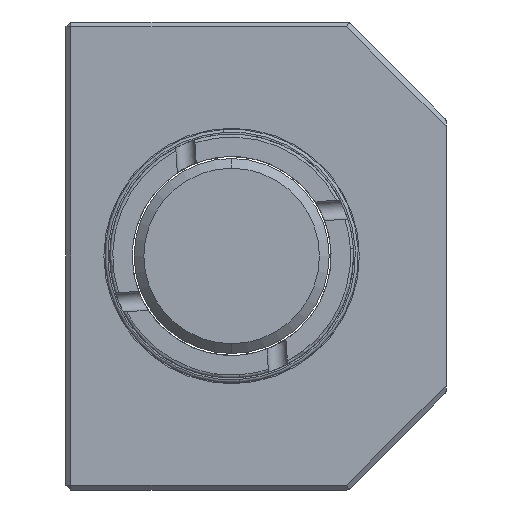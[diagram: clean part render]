
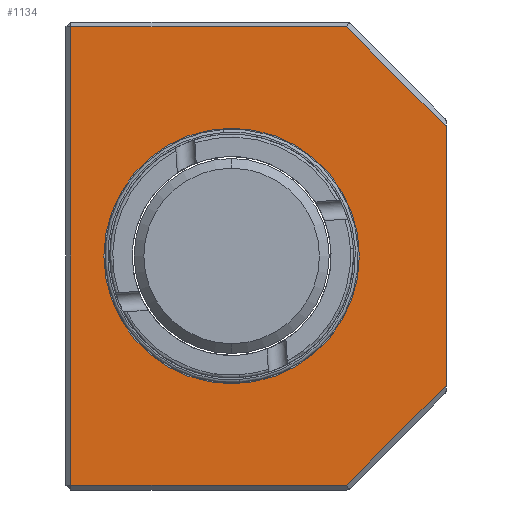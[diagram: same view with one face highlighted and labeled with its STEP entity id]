
A CAD part, left-side view. The second image highlights one B-rep face of the part: STEP entity #1134.
In plain terms, the highlighted planar face has unit normal (-1, 0, 0).
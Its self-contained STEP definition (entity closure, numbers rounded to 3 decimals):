
#54 = DIRECTION ( 'NONE',  ( 0., -1., 0. ) ) ;
#278 = AXIS2_PLACEMENT_3D ( 'NONE', #1485, #3165, #1217 ) ;
#305 = CARTESIAN_POINT ( 'NONE',  ( 0., -22.75, 24. ) ) ;
#311 = AXIS2_PLACEMENT_3D ( 'NONE', #2045, #3024, #2000 ) ;
#442 = CARTESIAN_POINT ( 'NONE',  ( 0., -22.396, -13.646 ) ) ;
#603 = DIRECTION ( 'NONE',  ( 0., 0.707, 0.707 ) ) ;
#983 = LINE ( 'NONE', #2942, #3296 ) ;
#1001 = CARTESIAN_POINT ( 'NONE',  ( 0., -0.75, -13.1 ) ) ;
#1059 = VERTEX_POINT ( 'NONE', #1918 ) ;
#1120 = CARTESIAN_POINT ( 'NONE',  ( 0., 0., 23.5 ) ) ;
#1134 = ADVANCED_FACE ( 'NONE', ( #3565, #1159 ), #1142, .F. ) ;
#1142 = PLANE ( 'NONE',  #278 ) ;
#1149 = ORIENTED_EDGE ( 'NONE', *, *, #1264, .T. ) ;
#1159 = FACE_BOUND ( 'NONE', #3712, .T. ) ;
#1217 = DIRECTION ( 'NONE',  ( 0., 0., -1. ) ) ;
#1264 = EDGE_CURVE ( 'NONE', #2435, #1774, #983, .T. ) ;
#1328 = DIRECTION ( 'NONE',  ( 1., 0., 0. ) ) ;
#1337 = EDGE_LOOP ( 'NONE', ( #2909, #1607, #2299, #3173, #1965, #1149 ) ) ;
#1402 = EDGE_CURVE ( 'NONE', #2127, #2966, #3200, .T. ) ;
#1409 = EDGE_CURVE ( 'NONE', #3902, #1059, #2307, .T. ) ;
#1485 = CARTESIAN_POINT ( 'NONE',  ( 0., 0., 0. ) ) ;
#1493 = DIRECTION ( 'NONE',  ( 0., 1., 0. ) ) ;
#1511 = DIRECTION ( 'NONE',  ( 0., -0.707, 0.707 ) ) ;
#1548 = CARTESIAN_POINT ( 'NONE',  ( 0., -22.75, -13.293 ) ) ;
#1607 = ORIENTED_EDGE ( 'NONE', *, *, #3460, .T. ) ;
#1669 = EDGE_CURVE ( 'NONE', #2127, #3232, #2048, .T. ) ;
#1672 = DIRECTION ( 'NONE',  ( 0., 0., -1. ) ) ;
#1774 = VERTEX_POINT ( 'NONE', #3590 ) ;
#1777 = AXIS2_PLACEMENT_3D ( 'NONE', #3372, #1328, #1672 ) ;
#1790 = LINE ( 'NONE', #442, #4353 ) ;
#1918 = CARTESIAN_POINT ( 'NONE',  ( 0., -0.75, 13.1 ) ) ;
#1965 = ORIENTED_EDGE ( 'NONE', *, *, #3542, .T. ) ;
#2000 = DIRECTION ( 'NONE',  ( 0., 0., -1. ) ) ;
#2045 = CARTESIAN_POINT ( 'NONE',  ( 0., -0.75, 0. ) ) ;
#2048 = LINE ( 'NONE', #3293, #2057 ) ;
#2057 = VECTOR ( 'NONE', #603, 1000. ) ;
#2100 = VECTOR ( 'NONE', #1493, 1000. ) ;
#2127 = VERTEX_POINT ( 'NONE', #2868 ) ;
#2299 = ORIENTED_EDGE ( 'NONE', *, *, #1402, .F. ) ;
#2307 = CIRCLE ( 'NONE', #1777, 13.1 ) ;
#2382 = ORIENTED_EDGE ( 'NONE', *, *, #1409, .T. ) ;
#2435 = VERTEX_POINT ( 'NONE', #3353 ) ;
#2447 = EDGE_CURVE ( 'NONE', #1059, #3902, #3889, .T. ) ;
#2577 = DIRECTION ( 'NONE',  ( 0., 0., -1. ) ) ;
#2673 = VECTOR ( 'NONE', #3340, 1000. ) ;
#2868 = CARTESIAN_POINT ( 'NONE',  ( 0., -22.75, 13.293 ) ) ;
#2909 = ORIENTED_EDGE ( 'NONE', *, *, #3575, .T. ) ;
#2917 = ORIENTED_EDGE ( 'NONE', *, *, #2447, .T. ) ;
#2942 = CARTESIAN_POINT ( 'NONE',  ( 0., 15.75, 0. ) ) ;
#2966 = VERTEX_POINT ( 'NONE', #1548 ) ;
#3013 = VERTEX_POINT ( 'NONE', #3297 ) ;
#3024 = DIRECTION ( 'NONE',  ( 1., 0., 0. ) ) ;
#3033 = VECTOR ( 'NONE', #54, 1000. ) ;
#3165 = DIRECTION ( 'NONE',  ( 1., 0., 0. ) ) ;
#3173 = ORIENTED_EDGE ( 'NONE', *, *, #1669, .T. ) ;
#3200 = LINE ( 'NONE', #305, #2673 ) ;
#3232 = VERTEX_POINT ( 'NONE', #3684 ) ;
#3293 = CARTESIAN_POINT ( 'NONE',  ( 0., -18.021, 18.021 ) ) ;
#3296 = VECTOR ( 'NONE', #2577, 1000. ) ;
#3297 = CARTESIAN_POINT ( 'NONE',  ( 0., -12.543, -23.5 ) ) ;
#3340 = DIRECTION ( 'NONE',  ( 0., 0., -1. ) ) ;
#3353 = CARTESIAN_POINT ( 'NONE',  ( 0., 15.75, 23.5 ) ) ;
#3372 = CARTESIAN_POINT ( 'NONE',  ( 0., -0.75, 0. ) ) ;
#3403 = LINE ( 'NONE', #1120, #2100 ) ;
#3460 = EDGE_CURVE ( 'NONE', #3013, #2966, #1790, .T. ) ;
#3542 = EDGE_CURVE ( 'NONE', #3232, #2435, #3403, .T. ) ;
#3565 = FACE_OUTER_BOUND ( 'NONE', #1337, .T. ) ;
#3575 = EDGE_CURVE ( 'NONE', #1774, #3013, #3879, .T. ) ;
#3590 = CARTESIAN_POINT ( 'NONE',  ( 0., 15.75, -23.5 ) ) ;
#3684 = CARTESIAN_POINT ( 'NONE',  ( 0., -12.543, 23.5 ) ) ;
#3712 = EDGE_LOOP ( 'NONE', ( #2917, #2382 ) ) ;
#3879 = LINE ( 'NONE', #4118, #3033 ) ;
#3889 = CIRCLE ( 'NONE', #311, 13.1 ) ;
#3902 = VERTEX_POINT ( 'NONE', #1001 ) ;
#4118 = CARTESIAN_POINT ( 'NONE',  ( 0., 0., -23.5 ) ) ;
#4353 = VECTOR ( 'NONE', #1511, 1000. ) ;
